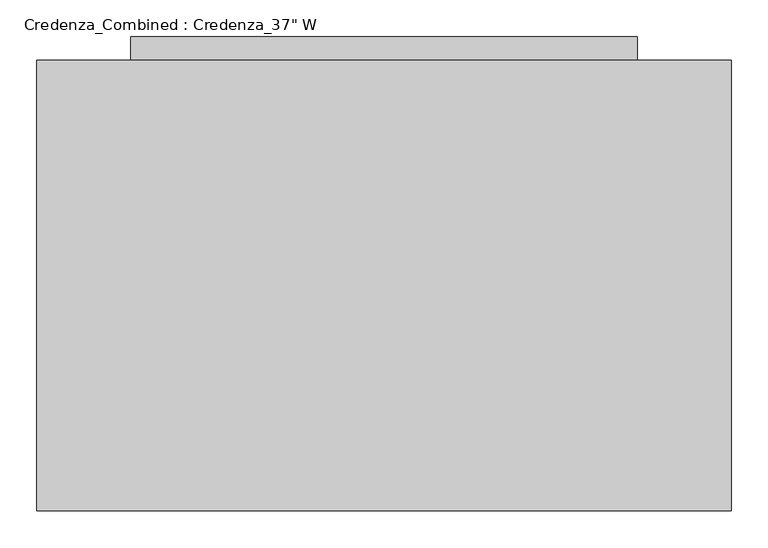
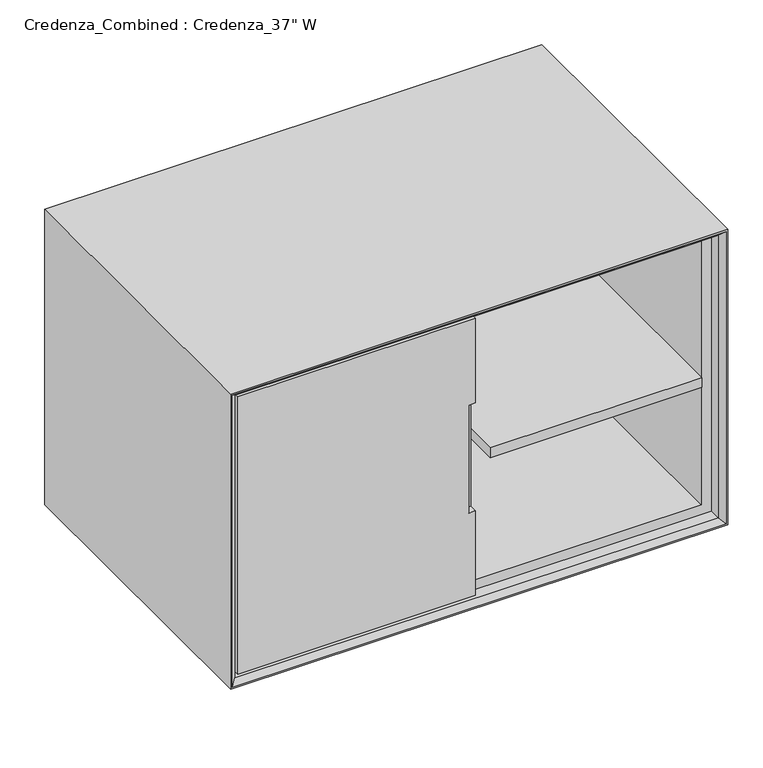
"""IFC4 building model written with IfcOpenShell, lengths in millimetres: furniture geometry."""

import ifcopenshell
import ifcopenshell.guid

model = None  # the IFC model being written
_history = None  # IfcOwnerHistory: only IFC2X3 demands one
_inside = {}  # id of a spatial element -> (the spatial element, [elements in it])
_under = {}  # id of a project, library or spatial element -> (it, [spatial elements below it])
_declared = {}  # id of a project -> (the project, [libraries it declares])
_typed = {}  # id of a type object -> (the type object, [elements of that type])
_made_of = {}  # id of a material, layer set ... -> (it, [elements and type objects made of it])


def new_model(schema):
    """Start an empty IFC model of exactly this schema.

    Asked for "IFC4X3", IfcOpenShell would pick the latest addendum, in which some entities
    have other attributes; the version numbers below select the first issue.
    IFC2X3 requires an IfcOwnerHistory on every rooted entity: one is made here for all.
    """
    global model, _history
    if schema == "IFC4X3":
        model = ifcopenshell.file(schema_version=(4, 3, 0, 0))
    else:
        model = ifcopenshell.file(schema=schema)
    _inside.clear()
    _under.clear()
    _declared.clear()
    _typed.clear()
    _made_of.clear()
    _history = None
    if model.schema == "IFC2X3":
        org = make("IfcOrganization", Name="unknown")
        user = make(
            "IfcPersonAndOrganization",
            ThePerson=make("IfcPerson", FamilyName="unknown"),
            TheOrganization=org,
        )
        app = make(
            "IfcApplication",
            ApplicationDeveloper=org,
            Version="unknown",
            ApplicationFullName="unknown",
            ApplicationIdentifier="unknown",
        )
        _history = make(
            "IfcOwnerHistory",
            OwningUser=user,
            OwningApplication=app,
            ChangeAction="ADDED",
            CreationDate=0,
        )
    return model


def make(cls, **values):
    """One entity of the class cls with the attributes given. An attribute that is None is left unset."""
    return model.create_entity(
        cls, **{name: value for name, value in values.items() if value is not None}
    )


def rooted(cls, **values):
    """An entity with a GlobalId (a new one), such as an element, a storey or a relation."""
    return make(cls, GlobalId=ifcopenshell.guid.new(), OwnerHistory=_history, **values)


def si_unit(unit_type, name, prefix=None):
    """IfcSIUnit, for example si_unit("LENGTHUNIT", "METRE", prefix="MILLI")."""
    return make("IfcSIUnit", UnitType=unit_type, Prefix=prefix, Name=name)


def assignment(units):
    """IfcUnitAssignment: the units of a project."""
    return None if units is None else make("IfcUnitAssignment", Units=units)


def point(xyz):
    """IfcCartesianPoint."""
    return None if xyz is None else make("IfcCartesianPoint", Coordinates=xyz)


def direction(xyz):
    """IfcDirection."""
    return None if xyz is None else make("IfcDirection", DirectionRatios=xyz)


def frame(location, z_axis=None, x_axis=None):
    """IfcAxis2Placement3D, a coordinate frame: its origin and axes. An axis left out is left unset."""
    return make(
        "IfcAxis2Placement3D",
        Location=point(location),
        Axis=direction(z_axis),
        RefDirection=direction(x_axis),
    )


def origin():
    """The frame at (0, 0, 0) with its axes left unset."""
    return frame((0.0, 0.0, 0.0))


def origin_with_axes():
    """The frame at (0, 0, 0) with the z axis (0, 0, 1) and the x axis (1, 0, 0) written out."""
    return frame((0.0, 0.0, 0.0), z_axis=(0.0, 0.0, 1.0), x_axis=(1.0, 0.0, 0.0))


def place(relative_to, where):
    """IfcLocalPlacement: puts the frame where relative to a parent placement (None: the world)."""
    return make(
        "IfcLocalPlacement", PlacementRelTo=relative_to, RelativePlacement=where
    )


def context(
    kind, dimensions, precision=None, world=None, true_north=None, identifier=None
):
    """IfcGeometricRepresentationContext, for example the 3D "Model" context."""
    return make(
        "IfcGeometricRepresentationContext",
        ContextIdentifier=identifier,
        ContextType=kind,
        CoordinateSpaceDimension=dimensions,
        Precision=precision,
        WorldCoordinateSystem=world,
        TrueNorth=true_north,
    )


def project(units=None, contexts=None):
    """IfcProject with its units and contexts."""
    return rooted(
        "IfcProject",
        Name="project",
        RepresentationContexts=contexts,
        UnitsInContext=assignment(units),
    )


def spatial(cls, under=None, at=None, **own):
    """A site, building, storey or space (cls), placed at a placement, below another one or the project."""
    s = rooted(cls, ObjectPlacement=at, **own)
    if under is not None:
        _under.setdefault(under.id(), (under, []))[1].append(s)
    return s


def polyline(points):
    """IfcPolyline through the points."""
    return make("IfcPolyline", Points=[point(p) for p in points])


def outline(outer, holes=None, kind="AREA"):
    """IfcArbitraryClosedProfileDef: a profile drawn as a closed curve; with holes, ...WithVoids."""
    if holes is None:
        return make("IfcArbitraryClosedProfileDef", ProfileType=kind, OuterCurve=outer)
    return make(
        "IfcArbitraryProfileDefWithVoids",
        ProfileType=kind,
        OuterCurve=outer,
        InnerCurves=holes,
    )


def extrude(swept, where, along, depth):
    """IfcExtrudedAreaSolid: the profile swept, set in the frame where, extruded along a direction by depth."""
    return make(
        "IfcExtrudedAreaSolid",
        SweptArea=swept,
        Position=where,
        ExtrudedDirection=direction(along),
        Depth=depth,
    )


def faces_of(points, faces, orient=None, outer=None):
    """IfcFace entities. A face is a list of loops; a loop is a list of indices into points, from 0.

    orient and outer hold one flag for each loop. By default every Orientation is true, the
    first loop of a face is its IfcFaceOuterBound and the others are IfcFaceBound.
    """
    made = []
    for i, loops in enumerate(faces):
        bounds = []
        for j, loop in enumerate(loops):
            is_outer = j == 0 if outer is None else outer[i][j]
            bounds.append(
                make(
                    "IfcFaceOuterBound" if is_outer else "IfcFaceBound",
                    Bound=make("IfcPolyLoop", Polygon=[points[k] for k in loop]),
                    Orientation=True if orient is None else orient[i][j],
                )
            )
        made.append(make("IfcFace", Bounds=bounds))
    return made


def faceted_brep(points, faces, orient=None, outer=None, voids=None):
    """IfcFacetedBrep: a solid bounded by flat faces; with voids (closed shells), ...WithVoids."""
    shared = [point(p) for p in points]
    hull = make("IfcClosedShell", CfsFaces=faces_of(shared, faces, orient, outer))
    if voids is None:
        return make("IfcFacetedBrep", Outer=hull)
    return make(
        "IfcFacetedBrepWithVoids",
        Outer=hull,
        Voids=[
            make(cls, CfsFaces=faces_of(shared, fs, o, b)) for cls, fs, o, b in voids
        ],
    )


def shape(context_of_items, identifier, shape_type, items):
    """IfcShapeRepresentation: the items that make up one representation, for example the "Body"."""
    return make(
        "IfcShapeRepresentation",
        ContextOfItems=context_of_items,
        RepresentationIdentifier=identifier,
        RepresentationType=shape_type,
        Items=items,
    )


def source(mapping_origin, context_of_items, identifier, shape_type, items):
    """IfcRepresentationMap: a shape defined once, which mapped items show again and again."""
    return make(
        "IfcRepresentationMap",
        MappingOrigin=mapping_origin,
        MappedRepresentation=shape(context_of_items, identifier, shape_type, items),
    )


def transform(
    local_origin,
    x_axis=None,
    y_axis=None,
    z_axis=None,
    scale=None,
    scale2=None,
    scale3=None,
    uniform=True,
):
    """IfcCartesianTransformationOperator3D, or its non-uniform kind. x_axis, y_axis, z_axis: its Axis1, 2, 3."""
    if uniform:
        return make(
            "IfcCartesianTransformationOperator3D",
            Axis1=direction(x_axis),
            Axis2=direction(y_axis),
            LocalOrigin=point(local_origin),
            Scale=scale,
            Axis3=direction(z_axis),
        )
    return make(
        "IfcCartesianTransformationOperator3DnonUniform",
        Axis1=direction(x_axis),
        Axis2=direction(y_axis),
        LocalOrigin=point(local_origin),
        Scale=scale,
        Axis3=direction(z_axis),
        Scale2=scale2,
        Scale3=scale3,
    )


def mapped(mapping_source, mapping_target):
    """IfcMappedItem: shows the shape of a source again, moved by a transform."""
    return make(
        "IfcMappedItem", MappingSource=mapping_source, MappingTarget=mapping_target
    )


def made_of(thing, what):
    """Note that an element or type object is made of a material, layer set ...; save() writes the relation."""
    if what is not None:
        _made_of.setdefault(what.id(), (what, []))[1].append(thing)
    return thing


def element(
    cls,
    number,
    at=None,
    inside=None,
    cuts=None,
    type_object=None,
    material=None,
    context=None,
    identifier="Body",
    shape_type=None,
    held_by="IfcProductDefinitionShape",
    body=None,
    shapes=None,
    **own,
):
    """One element of the class cls, such as IfcWall. Its Tag is "e" and its number.

    at: its placement. inside: the storey or other place that contains it. cuts: it is an
    opening in that element (IfcRelVoidsElement). A single representation is given by context,
    identifier, shape_type and body (its items); several are given by shapes. held_by: the class
    of the entity that holds the representations. save() writes the other relations.
    """
    e = rooted(cls, Tag="e%d" % number, ObjectPlacement=at, **own)
    if body is not None:
        shapes = [shape(context, identifier, shape_type, body)]
    if shapes is not None:
        e.Representation = make(held_by, Representations=shapes)
    if inside is not None:
        _inside.setdefault(inside.id(), (inside, []))[1].append(e)
    if cuts is not None:
        rooted(
            "IfcRelVoidsElement", RelatingBuildingElement=cuts, RelatedOpeningElement=e
        )
    if type_object is not None:
        _typed.setdefault(type_object.id(), (type_object, []))[1].append(e)
    return made_of(e, material)


def aggregate(whole, parts):
    """IfcRelAggregates: a whole, such as a stair, and the parts it consists of."""
    return rooted("IfcRelAggregates", RelatingObject=whole, RelatedObjects=parts)


def save(model, path):
    """Write the relations noted so far, then the file.

    IfcRelAggregates (storeys below a building ...), IfcRelContainedInSpatialStructure (elements
    in a storey), IfcRelDefinesByType, IfcRelAssociatesMaterial and IfcRelDeclares: one each for
    every whole, place, type object, material and project.
    """
    for whole, parts in _under.values():
        aggregate(whole, parts)
    for where, things in _inside.values():
        rooted(
            "IfcRelContainedInSpatialStructure",
            RelatedElements=things,
            RelatingStructure=where,
        )
    for kind, things in _typed.values():
        rooted("IfcRelDefinesByType", RelatedObjects=things, RelatingType=kind)
    for what, things in _made_of.values():
        rooted("IfcRelAssociatesMaterial", RelatedObjects=things, RelatingMaterial=what)
    for by, libraries in _declared.values():
        rooted("IfcRelDeclares", RelatingContext=by, RelatedDefinitions=libraries)
    model.write(path)


def furniture_f450b1d9(model_context):
    return source(origin(), model_context, "Body", "SolidModel", [
        extrude(outline(polyline([(896.14375, 609.6), (896.14375, 9.525), (496.09375, 9.525), (496.09375, 609.6), (896.14375, 609.6)])), frame((0.0, 0.0, 371.475), z_axis=(0.0, 0.0, 1.0), x_axis=(1.0, 0.0, 0.0)), (0.0, 0.0, 1.0), 19.05),
        extrude(outline(polyline([(812.8, 609.6), (812.8, 241.3), (127.0, 241.3), (127.0, 609.6), (812.8, 609.6)])), origin_with_axes(), (0.0, 0.0, 1.0), 87.3125),
        extrude(outline(polyline([(812.8, 641.35), (812.8, 609.6), (127.0, 609.6), (127.0, 641.35), (812.8, 641.35)])), origin_with_axes(), (0.0, 0.0, 1.0), 647.7),
        extrude(outline(polyline([(665.1625, 927.1), (665.1625, 12.7), (100.0125, 12.7), (100.0125, 927.1), (665.1625, 927.1)]), holes=[polyline([(646.1125, 31.75), (646.1125, 908.05), (119.0625, 908.05), (119.0625, 31.75), (646.1125, 31.75)])]), frame((0.0, 31.75, 0.0), z_axis=(0.0, 1.0, 0.0), x_axis=(0.0, 0.0, 1.0)), (0.0, 0.0, 1.0), 577.85),
        faceted_brep([(927.1, 9.525, 665.1625), (927.1, 609.6, 665.1625), (927.1, 609.6, 100.0125), (927.1, 9.525, 100.0125), (936.625, 0.0, 674.6875), (936.625, 0.0, 90.4875), (939.8, 609.6, 677.8625), (939.8, 0.0, 677.8625), (939.8, 0.0, 87.3125), (939.8, 609.6, 87.3125), (12.7, 609.6, 100.0125), (12.7, 9.525, 100.0125), (3.175, 0.0, 90.4875), (0.0, 0.0, 87.3125), (0.0, 609.6, 87.3125), (12.7, 609.6, 665.1625), (12.7, 9.525, 665.1625), (3.175, 0.0, 674.6875), (0.0, 0.0, 677.8625), (0.0, 609.6, 677.8625)], [[[0, 1, 2, 3]], [[4, 0, 3, 5]], [[6, 7, 8, 9]], [[3, 2, 10, 11]], [[5, 3, 11, 12]], [[9, 8, 13, 14]], [[11, 10, 15, 16]], [[12, 11, 16, 17]], [[14, 13, 18, 19]], [[9, 14, 19, 6], [1, 15, 10, 2]], [[16, 15, 1, 0]], [[17, 16, 0, 4]], [[7, 18, 13, 8], [5, 12, 17, 4]], [[19, 18, 7, 6]]]),
        faceted_brep([(468.3125, 28.575, 659.60625), (19.05, 28.575, 659.60625), (19.05, 9.525, 659.60625), (468.3125, 9.525, 659.60625), (468.3125, 28.575, 105.56875), (468.3125, 9.525, 105.56875), (19.05, 9.525, 105.56875), (19.05, 28.575, 105.56875), (468.3125, 9.525, 274.6375), (455.6125, 9.525, 274.6375), (455.6125, 9.525, 490.5375), (468.3125, 9.525, 490.5375), (468.3125, 25.4, 490.5375), (468.3125, 25.4, 274.6375), (455.6125, 25.4, 490.5375), (455.6125, 25.4, 274.6375)], [[[0, 1, 2, 3]], [[4, 5, 6, 7]], [[1, 0, 4, 7]], [[2, 1, 7, 6]], [[3, 2, 6, 5, 8, 9, 10, 11]], [[0, 3, 11, 12, 13, 8, 5, 4]], [[12, 14, 15, 13]], [[14, 12, 11, 10]], [[15, 14, 10, 9]], [[13, 15, 9, 8]]]),
        extrude(outline(polyline([(468.3125, 609.6), (468.3125, 28.575), (19.05, 28.575), (19.05, 609.6), (468.3125, 609.6)])), frame((0.0, 0.0, 382.5875), z_axis=(0.0, 0.0, 1.0), x_axis=(1.0, 0.0, 0.0)), (0.0, 0.0, 1.0), 19.05),
    ])


if __name__ == "__main__":
    model = new_model("IFC4")
    model_context = context("Model", 3, world=origin())
    ifc_project = project(units=[si_unit("LENGTHUNIT", "METRE", prefix="MILLI")], contexts=[model_context])
    site = spatial("IfcSite", under=ifc_project)
    building = spatial("IfcBuilding", under=site)
    placement = place(None, origin())
    furniture_shape = furniture_f450b1d9(model_context)
    element("IfcFurniture", 1, ObjectType="Credenza_Combined : Credenza_37\" W", at=placement, inside=building, context=model_context, shape_type="MappedRepresentation", body=[
        mapped(furniture_shape, transform((0.0, 0.0, 0.0), x_axis=(1.0, 0.0, 0.0), y_axis=(0.0, 1.0, 0.0), z_axis=(0.0, 0.0, 1.0))),
    ])
    save(model, "model.ifc")
